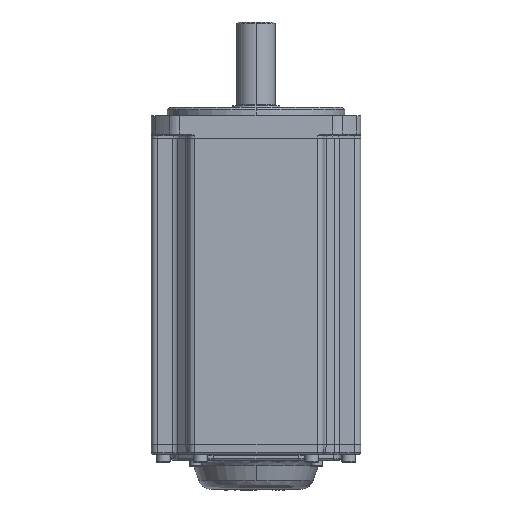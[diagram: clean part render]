
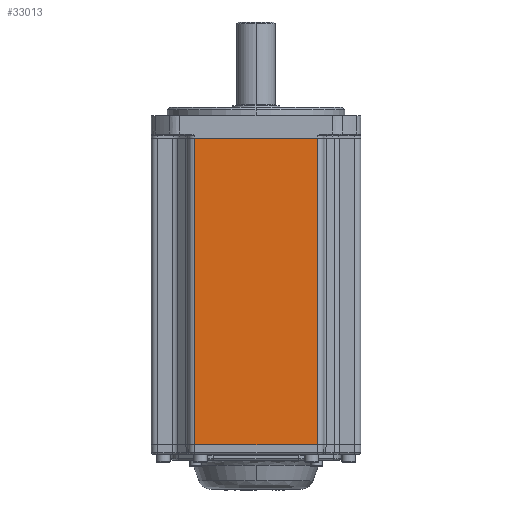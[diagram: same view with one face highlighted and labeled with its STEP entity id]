
A CAD part, front view. The second image highlights one B-rep face of the part: STEP entity #33013.
In plain terms, the highlighted planar face has unit normal (0, -1, 0).
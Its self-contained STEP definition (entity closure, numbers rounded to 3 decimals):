
#398 = ORIENTED_EDGE ( 'NONE', *, *, #9156, .T. ) ;
#2100 = VERTEX_POINT ( 'NONE', #41999 ) ;
#8749 = VECTOR ( 'NONE', #26957, 1000. ) ;
#9156 = EDGE_CURVE ( 'NONE', #2100, #53331, #32407, .T. ) ;
#9358 = CARTESIAN_POINT ( 'NONE',  ( -42., -65., 47.8 ) ) ;
#10493 = CARTESIAN_POINT ( 'NONE',  ( -42., -65., -142.2 ) ) ;
#10706 = DIRECTION ( 'NONE',  ( 0., 0., 1. ) ) ;
#13287 = ORIENTED_EDGE ( 'NONE', *, *, #46953, .T. ) ;
#13303 = CARTESIAN_POINT ( 'NONE',  ( 38., -65., 857.8 ) ) ;
#14026 = DIRECTION ( 'NONE',  ( 1., 0., 0. ) ) ;
#14278 = AXIS2_PLACEMENT_3D ( 'NONE', #30498, #39749, #10706 ) ;
#15782 = ORIENTED_EDGE ( 'NONE', *, *, #47771, .T. ) ;
#16641 = FACE_OUTER_BOUND ( 'NONE', #48702, .T. ) ;
#18600 = LINE ( 'NONE', #9358, #41149 ) ;
#20608 = PLANE ( 'NONE',  #14278 ) ;
#20807 = VERTEX_POINT ( 'NONE', #22906 ) ;
#22906 = CARTESIAN_POINT ( 'NONE',  ( 38., -65., 47.8 ) ) ;
#24593 = LINE ( 'NONE', #27803, #8749 ) ;
#24887 = CARTESIAN_POINT ( 'NONE',  ( 38., -65., -142.2 ) ) ;
#25273 = DIRECTION ( 'NONE',  ( 1., 0., 0. ) ) ;
#26957 = DIRECTION ( 'NONE',  ( 0., 0., -1. ) ) ;
#27153 = CARTESIAN_POINT ( 'NONE',  ( -38., -65., 47.8 ) ) ;
#27803 = CARTESIAN_POINT ( 'NONE',  ( -38., -65., 857.8 ) ) ;
#28383 = ORIENTED_EDGE ( 'NONE', *, *, #48387, .F. ) ;
#30498 = CARTESIAN_POINT ( 'NONE',  ( -42., -65., 857.8 ) ) ;
#30818 = VERTEX_POINT ( 'NONE', #27153 ) ;
#32407 = LINE ( 'NONE', #10493, #45133 ) ;
#33013 = ADVANCED_FACE ( 'NONE', ( #16641 ), #20608, .F. ) ;
#39749 = DIRECTION ( 'NONE',  ( 0., 1., 0. ) ) ;
#41149 = VECTOR ( 'NONE', #14026, 1000. ) ;
#41999 = CARTESIAN_POINT ( 'NONE',  ( -38., -65., -142.2 ) ) ;
#45133 = VECTOR ( 'NONE', #25273, 1000. ) ;
#46442 = VECTOR ( 'NONE', #47309, 1000. ) ;
#46953 = EDGE_CURVE ( 'NONE', #53331, #20807, #55569, .T. ) ;
#47309 = DIRECTION ( 'NONE',  ( 0., 0., 1. ) ) ;
#47771 = EDGE_CURVE ( 'NONE', #30818, #2100, #24593, .T. ) ;
#48387 = EDGE_CURVE ( 'NONE', #30818, #20807, #18600, .T. ) ;
#48702 = EDGE_LOOP ( 'NONE', ( #28383, #15782, #398, #13287 ) ) ;
#53331 = VERTEX_POINT ( 'NONE', #24887 ) ;
#55569 = LINE ( 'NONE', #13303, #46442 ) ;
